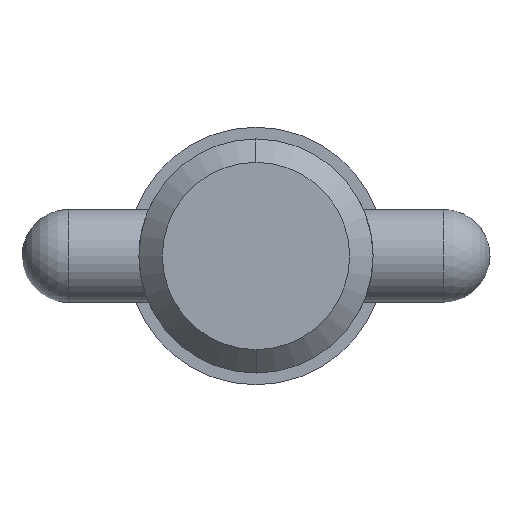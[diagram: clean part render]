
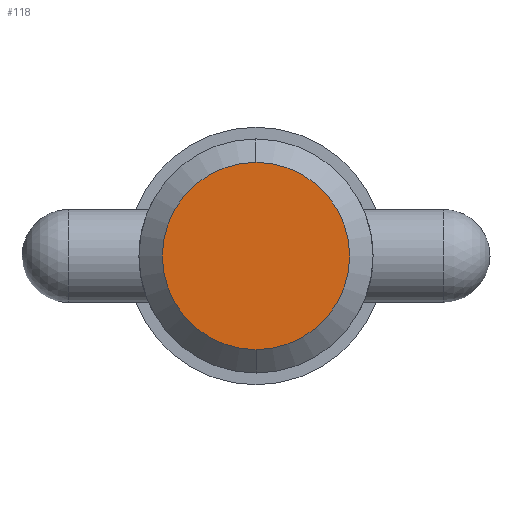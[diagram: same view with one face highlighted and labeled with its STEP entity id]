
A CAD part, left-side view. The second image highlights one B-rep face of the part: STEP entity #118.
In plain terms, the highlighted planar face has unit normal (-1, 0, 0).
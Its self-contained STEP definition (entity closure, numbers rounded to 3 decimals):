
#13 = AXIS2_PLACEMENT_3D ( 'NONE', #844, #988, #101 ) ;
#101 = DIRECTION ( 'NONE',  ( 0., 0., -1. ) ) ;
#118 = ADVANCED_FACE ( 'NONE', ( #456 ), #564, .T. ) ;
#175 = CARTESIAN_POINT ( 'NONE',  ( 0., 0., 0. ) ) ;
#179 = DIRECTION ( 'NONE',  ( 0., 0., -1. ) ) ;
#183 = CIRCLE ( 'NONE', #13, 6.352 ) ;
#215 = CIRCLE ( 'NONE', #250, 6.352 ) ;
#222 = ORIENTED_EDGE ( 'NONE', *, *, #340, .F. ) ;
#250 = AXIS2_PLACEMENT_3D ( 'NONE', #324, #659, #179 ) ;
#251 = CARTESIAN_POINT ( 'NONE',  ( 0., 0., 6.352 ) ) ;
#265 = VERTEX_POINT ( 'NONE', #667 ) ;
#324 = CARTESIAN_POINT ( 'NONE',  ( 0., 0., 0. ) ) ;
#332 = DIRECTION ( 'NONE',  ( 0., 0., 1. ) ) ;
#340 = EDGE_CURVE ( 'NONE', #265, #690, #215, .T. ) ;
#456 = FACE_OUTER_BOUND ( 'NONE', #798, .T. ) ;
#564 = PLANE ( 'NONE',  #864 ) ;
#659 = DIRECTION ( 'NONE',  ( 1., 0., 0. ) ) ;
#667 = CARTESIAN_POINT ( 'NONE',  ( 0., 0., -6.352 ) ) ;
#690 = VERTEX_POINT ( 'NONE', #251 ) ;
#756 = EDGE_CURVE ( 'NONE', #690, #265, #183, .T. ) ;
#798 = EDGE_LOOP ( 'NONE', ( #222, #922 ) ) ;
#844 = CARTESIAN_POINT ( 'NONE',  ( 0., 0., 0. ) ) ;
#864 = AXIS2_PLACEMENT_3D ( 'NONE', #175, #991, #332 ) ;
#922 = ORIENTED_EDGE ( 'NONE', *, *, #756, .F. ) ;
#988 = DIRECTION ( 'NONE',  ( 1., 0., 0. ) ) ;
#991 = DIRECTION ( 'NONE',  ( -1., 0., 0. ) ) ;
